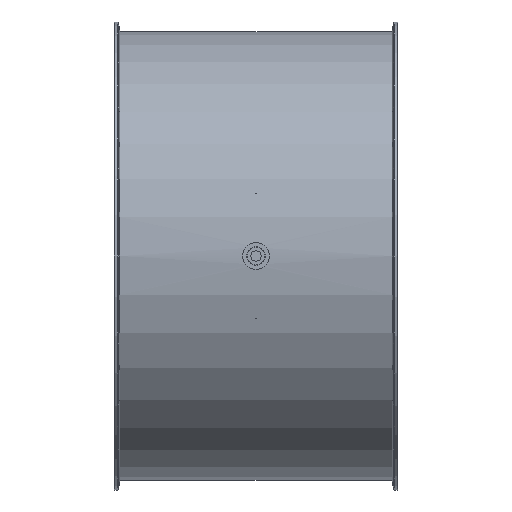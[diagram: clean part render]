
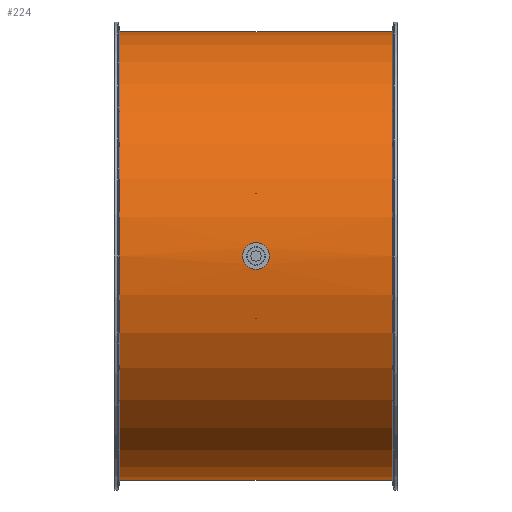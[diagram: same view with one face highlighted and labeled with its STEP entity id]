
A CAD part, front view. The second image highlights one B-rep face of the part: STEP entity #224.
In plain terms, the highlighted cylindrical face has radius 316 mm (diameter 632 mm), a full revolution.
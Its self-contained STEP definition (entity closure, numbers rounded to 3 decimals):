
#163=B_SPLINE_CURVE_WITH_KNOTS('',3,(#1402,#1403,#1404,#1405,#1406,#1407,
#1408,#1409,#1410,#1411,#1412,#1413,#1414,#1415,#1416,#1417,#1418,#1419),
 .UNSPECIFIED.,.T.,.F.,(2,2,2,2,2,2,2,2,2,2,2),(-0.125,0.,0.125,0.25,0.375,
0.5,0.625,0.75,0.875,1.,1.125),.UNSPECIFIED.);
#164=B_SPLINE_CURVE_WITH_KNOTS('',3,(#1421,#1422,#1423,#1424,#1425,#1426,
#1427,#1428,#1429,#1430,#1431,#1432,#1433,#1434,#1435,#1436,#1437,#1438),
 .UNSPECIFIED.,.T.,.F.,(2,2,2,2,2,2,2,2,2,2,2),(-0.125,0.,0.125,0.25,0.375,
0.5,0.625,0.75,0.875,1.,1.125),.UNSPECIFIED.);
#188=CYLINDRICAL_SURFACE('',#984,316.);
#224=ADVANCED_FACE('',(#319,#320,#321,#322),#188,.T.);
#319=FACE_BOUND('',#433,.T.);
#320=FACE_BOUND('',#434,.T.);
#321=FACE_BOUND('',#435,.T.);
#322=FACE_BOUND('',#436,.T.);
#433=EDGE_LOOP('',(#561));
#434=EDGE_LOOP('',(#562));
#435=EDGE_LOOP('',(#563));
#436=EDGE_LOOP('',(#564));
#561=ORIENTED_EDGE('',*,*,#816,.F.);
#562=ORIENTED_EDGE('',*,*,#818,.F.);
#563=ORIENTED_EDGE('',*,*,#819,.F.);
#564=ORIENTED_EDGE('',*,*,#820,.F.);
#736=VERTEX_POINT('',#1395);
#738=VERTEX_POINT('',#1400);
#739=VERTEX_POINT('',#1420);
#740=VERTEX_POINT('',#1439);
#816=EDGE_CURVE('',#736,#736,#908,.T.);
#818=EDGE_CURVE('',#738,#738,#910,.T.);
#819=EDGE_CURVE('',#739,#739,#163,.T.);
#820=EDGE_CURVE('',#740,#740,#164,.T.);
#908=CIRCLE('',#979,316.);
#910=CIRCLE('',#982,316.);
#979=AXIS2_PLACEMENT_3D('',#1394,#1121,#1122);
#982=AXIS2_PLACEMENT_3D('',#1399,#1127,#1128);
#984=AXIS2_PLACEMENT_3D('',#1440,#1131,#1132);
#1121=DIRECTION('',(1.,0.,0.));
#1122=DIRECTION('',(0.,0.,-1.));
#1127=DIRECTION('',(-1.,0.,0.));
#1128=DIRECTION('',(0.,0.,1.));
#1131=DIRECTION('',(1.,0.,0.));
#1132=DIRECTION('',(0.,0.,-1.));
#1394=CARTESIAN_POINT('',(192.133,-109.,125.));
#1395=CARTESIAN_POINT('',(192.133,-109.,-191.));
#1399=CARTESIAN_POINT('',(-192.133,-109.,125.));
#1400=CARTESIAN_POINT('',(-192.133,-109.,441.));
#1402=CARTESIAN_POINT('',(3.436,206.732,112.));
#1403=CARTESIAN_POINT('',(-3.436,206.732,112.));
#1404=CARTESIAN_POINT('',(-6.795,206.796,113.41));
#1405=CARTESIAN_POINT('',(-11.591,206.936,118.207));
#1406=CARTESIAN_POINT('',(-12.998,207.,121.601));
#1407=CARTESIAN_POINT('',(-13.002,207.,128.385));
#1408=CARTESIAN_POINT('',(-11.623,206.937,131.76));
#1409=CARTESIAN_POINT('',(-6.771,206.796,136.616));
#1410=CARTESIAN_POINT('',(-3.398,206.733,137.999));
#1411=CARTESIAN_POINT('',(3.389,206.732,138.001));
#1412=CARTESIAN_POINT('',(6.784,206.796,136.596));
#1413=CARTESIAN_POINT('',(11.583,206.936,131.806));
#1414=CARTESIAN_POINT('',(12.997,207.,128.443));
#1415=CARTESIAN_POINT('',(13.003,207.,121.583));
#1416=CARTESIAN_POINT('',(11.598,206.936,118.217));
#1417=CARTESIAN_POINT('',(6.802,206.797,113.413));
#1418=CARTESIAN_POINT('',(3.436,206.732,112.));
#1419=CARTESIAN_POINT('',(-3.436,206.732,112.));
#1420=CARTESIAN_POINT('',(0.,206.732,112.));
#1421=CARTESIAN_POINT('',(-3.436,-424.732,112.));
#1422=CARTESIAN_POINT('',(3.436,-424.732,112.));
#1423=CARTESIAN_POINT('',(6.795,-424.796,113.41));
#1424=CARTESIAN_POINT('',(11.591,-424.936,118.207));
#1425=CARTESIAN_POINT('',(12.998,-425.,121.601));
#1426=CARTESIAN_POINT('',(13.002,-425.,128.385));
#1427=CARTESIAN_POINT('',(11.623,-424.937,131.76));
#1428=CARTESIAN_POINT('',(6.771,-424.796,136.616));
#1429=CARTESIAN_POINT('',(3.398,-424.733,137.999));
#1430=CARTESIAN_POINT('',(-3.389,-424.732,138.001));
#1431=CARTESIAN_POINT('',(-6.784,-424.796,136.596));
#1432=CARTESIAN_POINT('',(-11.583,-424.936,131.806));
#1433=CARTESIAN_POINT('',(-12.997,-425.,128.443));
#1434=CARTESIAN_POINT('',(-13.003,-425.,121.583));
#1435=CARTESIAN_POINT('',(-11.598,-424.936,118.217));
#1436=CARTESIAN_POINT('',(-6.802,-424.797,113.413));
#1437=CARTESIAN_POINT('',(-3.436,-424.732,112.));
#1438=CARTESIAN_POINT('',(3.436,-424.732,112.));
#1439=CARTESIAN_POINT('',(0.,-424.732,112.));
#1440=CARTESIAN_POINT('',(-200.,-109.,125.));
